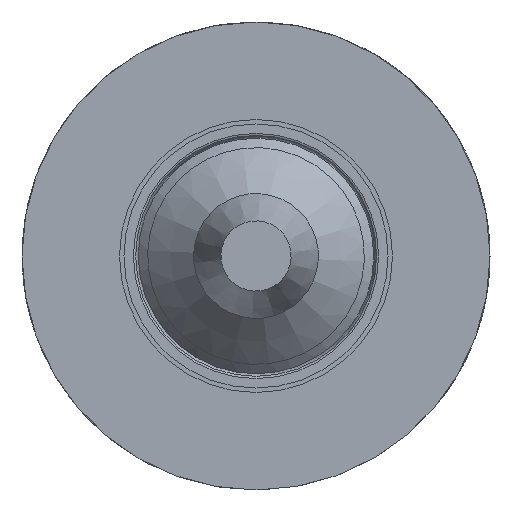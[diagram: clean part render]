
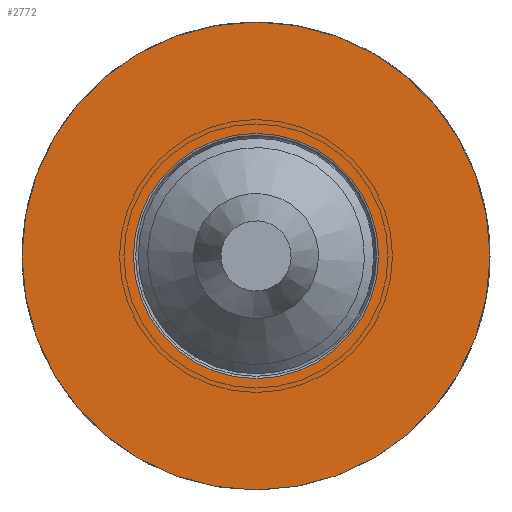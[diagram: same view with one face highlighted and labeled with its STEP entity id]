
A CAD part, left-side view. The second image highlights one B-rep face of the part: STEP entity #2772.
In plain terms, the highlighted planar face has unit normal (-1, 0, 0) as drawn and (0, 0, -1) by its records, which use the part's own axes.
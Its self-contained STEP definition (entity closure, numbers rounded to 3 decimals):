
#385=PLANE('',#3014);
#687=ORIENTED_EDGE('',*,*,#1465,.F.);
#688=ORIENTED_EDGE('',*,*,#1464,.T.);
#1464=EDGE_CURVE('',#1859,#1859,#2141,.T.);
#1465=EDGE_CURVE('',#1860,#1860,#2142,.T.);
#1859=VERTEX_POINT('',#3796);
#1860=VERTEX_POINT('',#3799);
#2141=CIRCLE('',#2998,15.);
#2142=CIRCLE('',#3000,7.856);
#2242=EDGE_LOOP('',(#687));
#2243=EDGE_LOOP('',(#688));
#2504=FACE_BOUND('',#2242,.T.);
#2505=FACE_BOUND('',#2243,.T.);
#2772=ADVANCED_FACE('',(#2504,#2505),#385,.T.);
#2998=AXIS2_PLACEMENT_3D('',#3795,#3218,#3219);
#3000=AXIS2_PLACEMENT_3D('',#3798,#3222,#3223);
#3014=AXIS2_PLACEMENT_3D('',#3820,#3250,#3251);
#3218=DIRECTION('',(0.,0.,-1.));
#3219=DIRECTION('',(-1.,0.,0.));
#3222=DIRECTION('',(0.,0.,-1.));
#3223=DIRECTION('',(-1.,0.,0.));
#3250=DIRECTION('',(0.,0.,-1.));
#3251=DIRECTION('',(-1.,0.,0.));
#3795=CARTESIAN_POINT('',(0.,0.,-17.294));
#3796=CARTESIAN_POINT('',(-15.,0.,-17.294));
#3798=CARTESIAN_POINT('',(0.,0.,-17.294));
#3799=CARTESIAN_POINT('',(-7.856,0.,-17.294));
#3820=CARTESIAN_POINT('',(0.,-7.706,-17.294));
